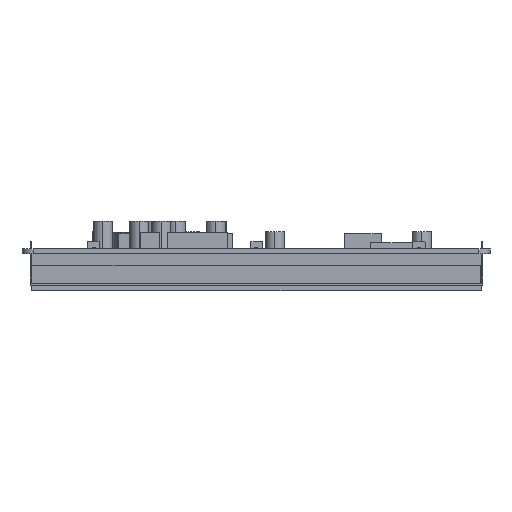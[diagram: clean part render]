
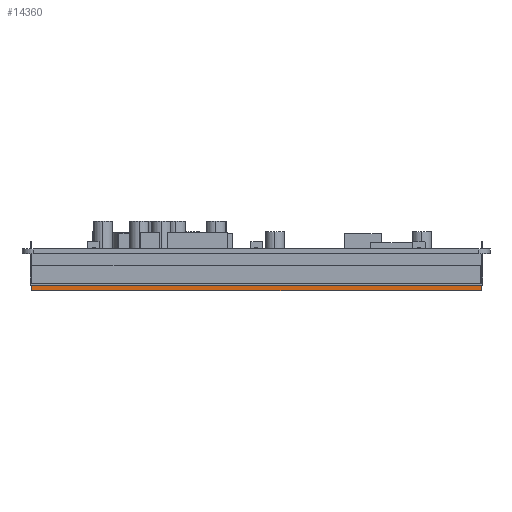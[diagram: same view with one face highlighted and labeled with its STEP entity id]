
A CAD part, left-side view. The second image highlights one B-rep face of the part: STEP entity #14360.
In plain terms, the highlighted planar face has unit normal (-1, 0, 0) as drawn and (1, 0, 0) by its records, which use the part's own axes.
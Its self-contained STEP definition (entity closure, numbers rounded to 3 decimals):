
#14165=DIRECTION('',(0.,1.,0.));
#14166=VECTOR('',#14165,149.3);
#14167=CARTESIAN_POINT('',(272.445,69.224,0.));
#14168=LINE('',#14167,#14166);
#14185=DIRECTION('',(0.,0.,1.));
#14186=VECTOR('',#14185,1.9);
#14187=CARTESIAN_POINT('',(272.445,218.524,0.));
#14188=LINE('',#14187,#14186);
#14189=DIRECTION('',(0.,0.,1.));
#14190=VECTOR('',#14189,1.9);
#14191=CARTESIAN_POINT('',(272.445,69.224,0.));
#14192=LINE('',#14191,#14190);
#14205=DIRECTION('',(0.,1.,0.));
#14206=VECTOR('',#14205,149.3);
#14207=CARTESIAN_POINT('',(272.445,69.224,1.9));
#14208=LINE('',#14207,#14206);
#14258=CARTESIAN_POINT('',(272.445,69.224,0.));
#14260=VERTEX_POINT('',#14258);
#14261=CARTESIAN_POINT('',(272.445,218.524,0.));
#14262=VERTEX_POINT('',#14261);
#14266=CARTESIAN_POINT('',(272.445,69.224,1.9));
#14268=VERTEX_POINT('',#14266);
#14269=CARTESIAN_POINT('',(272.445,218.524,1.9));
#14270=VERTEX_POINT('',#14269);
#14348=CARTESIAN_POINT('',(272.445,69.224,0.));
#14349=DIRECTION('',(1.,0.,0.));
#14350=DIRECTION('',(0.,1.,0.));
#14351=AXIS2_PLACEMENT_3D('',#14348,#14349,#14350);
#14352=PLANE('',#14351);
#14353=ORIENTED_EDGE('',*,*,#14296,.F.);
#14354=ORIENTED_EDGE('',*,*,#14315,.T.);
#14356=ORIENTED_EDGE('',*,*,#14355,.T.);
#14357=ORIENTED_EDGE('',*,*,#14340,.F.);
#14358=EDGE_LOOP('',(#14353,#14354,#14356,#14357));
#14359=FACE_OUTER_BOUND('',#14358,.F.);
#14296=EDGE_CURVE('',#14260,#14262,#14168,.T.);
#14315=EDGE_CURVE('',#14260,#14268,#14192,.T.);
#14340=EDGE_CURVE('',#14262,#14270,#14188,.T.);
#14355=EDGE_CURVE('',#14268,#14270,#14208,.T.);
#14360=ADVANCED_FACE('',(#14359),#14352,.T.);
